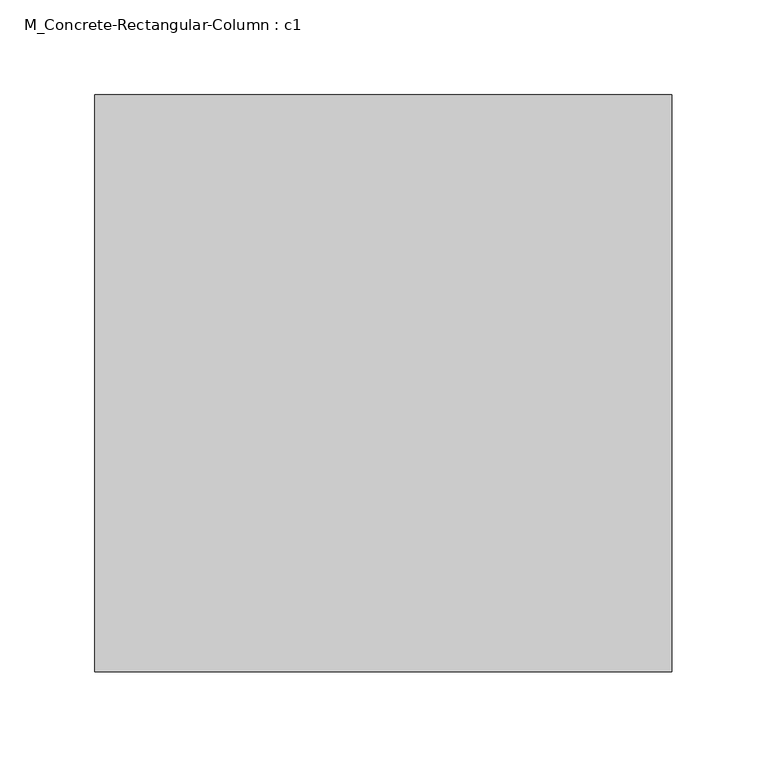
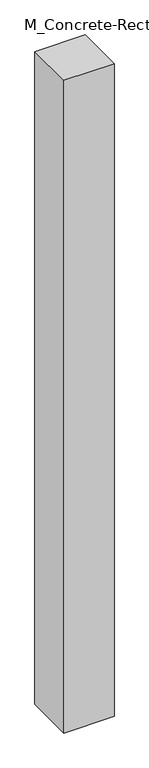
"""IFC4 building model written with IfcOpenShell, lengths in millimetres: column geometry, M_Concrete-Rectangular-Column : c1."""

from ifc_helpers import new_model, si_unit, frame, origin, place, context, project, spatial, polyline, outline, extrude, source, transform, mapped, element, save


def m_concrete_rectangular_column_c1_b98a9e01(model_context):
    return source(origin(), model_context, "Body", "SweptSolid", [
        extrude(outline(polyline([(152.4, 152.4), (152.4, -152.4), (-152.4, -152.4), (-152.4, 152.4), (152.4, 152.4)])), frame((0.0, 0.0, -609.6), z_axis=(0.0, 0.0, 1.0), x_axis=(1.0, 0.0, 0.0)), (0.0, 0.0, 1.0), 4191.0),
    ])


if __name__ == "__main__":
    model = new_model("IFC4")
    model_context = context("Model", 3, world=origin())
    ifc_project = project(units=[si_unit("LENGTHUNIT", "METRE", prefix="MILLI")], contexts=[model_context])
    site = spatial("IfcSite", under=ifc_project)
    building = spatial("IfcBuilding", under=site)
    placement = place(None, origin())
    m_concrete_rectangular_column_c1_shape = m_concrete_rectangular_column_c1_b98a9e01(model_context)
    element("IfcColumn", 1, ObjectType="M_Concrete-Rectangular-Column : c1", at=placement, inside=building, context=model_context, shape_type="MappedRepresentation", body=[
        mapped(m_concrete_rectangular_column_c1_shape, transform((0.0, 0.0, 0.0), x_axis=(1.0, 0.0, 0.0), y_axis=(0.0, 1.0, 0.0), z_axis=(0.0, 0.0, 1.0))),
    ])
    save(model, "model.ifc")
